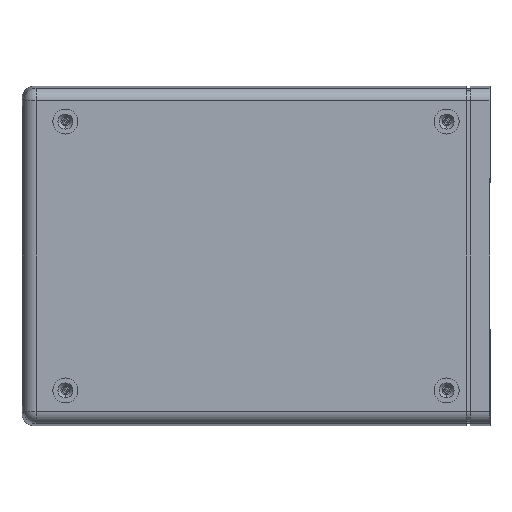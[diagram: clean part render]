
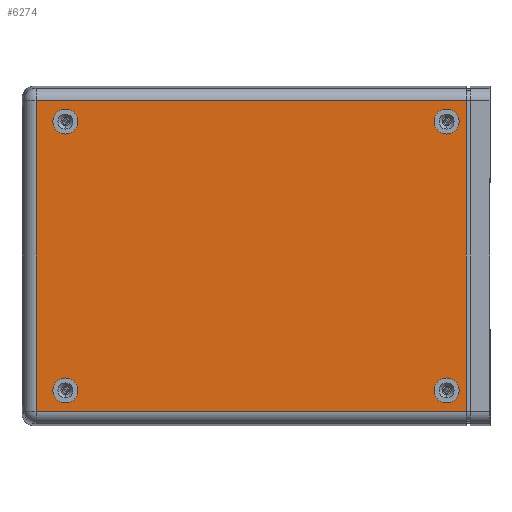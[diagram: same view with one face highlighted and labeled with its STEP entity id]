
A CAD part, front view. The second image highlights one B-rep face of the part: STEP entity #6274.
In plain terms, the highlighted planar face has unit normal (0, -1, 0).
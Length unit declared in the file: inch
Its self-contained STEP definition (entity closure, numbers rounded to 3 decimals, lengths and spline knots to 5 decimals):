
#88 = VECTOR ( 'NONE', #5483, 39.37008 ) ;
#230 = FACE_BOUND ( 'NONE', #10046, .T. ) ;
#500 = DIRECTION ( 'NONE',  ( 0., -1., 0. ) ) ;
#877 = AXIS2_PLACEMENT_3D ( 'NONE', #12162, #30300, #14810 ) ;
#947 = VERTEX_POINT ( 'NONE', #18120 ) ;
#1793 = EDGE_CURVE ( 'NONE', #17872, #31861, #30108, .T. ) ;
#1824 = LINE ( 'NONE', #27261, #8117 ) ;
#2478 = CARTESIAN_POINT ( 'NONE',  ( 3.044, -0.895, 1.9475 ) ) ;
#2642 = CARTESIAN_POINT ( 'NONE',  ( -3.51261, -0.895, -2.4758 ) ) ;
#2674 = EDGE_CURVE ( 'NONE', #12494, #27429, #30045, .T. ) ;
#2822 = DIRECTION ( 'NONE',  ( 0., -1., 0. ) ) ;
#3414 = DIRECTION ( 'NONE',  ( 0., 0., 1. ) ) ;
#3534 = VECTOR ( 'NONE', #27044, 39.37008 ) ;
#3787 = CIRCLE ( 'NONE', #27200, 0.2 ) ;
#3851 = EDGE_CURVE ( 'NONE', #947, #15308, #3787, .T. ) ;
#3924 = DIRECTION ( 'NONE',  ( 0., 1., 0. ) ) ;
#4255 = CARTESIAN_POINT ( 'NONE',  ( -3.044, -0.895, -2.1475 ) ) ;
#4320 = CARTESIAN_POINT ( 'NONE',  ( -3.044, -0.895, 2.1475 ) ) ;
#4995 = VERTEX_POINT ( 'NONE', #2642 ) ;
#5376 = EDGE_LOOP ( 'NONE', ( #19536, #28916 ) ) ;
#5483 = DIRECTION ( 'NONE',  ( -1., 0., 0. ) ) ;
#5812 = EDGE_LOOP ( 'NONE', ( #18097, #12903 ) ) ;
#6274 = ADVANCED_FACE ( 'NONE', ( #28072, #15216, #7384, #28907, #230 ), #26782, .F. ) ;
#6957 = DIRECTION ( 'NONE',  ( 0., 0., 1. ) ) ;
#7044 = DIRECTION ( 'NONE',  ( 0., 0., -1. ) ) ;
#7079 = CARTESIAN_POINT ( 'NONE',  ( -3.51261, -0.895, -2.6656 ) ) ;
#7254 = LINE ( 'NONE', #15930, #88 ) ;
#7384 = FACE_BOUND ( 'NONE', #16891, .T. ) ;
#8117 = VECTOR ( 'NONE', #9130, 39.37008 ) ;
#8181 = CIRCLE ( 'NONE', #877, 0.2 ) ;
#8906 = CARTESIAN_POINT ( 'NONE',  ( 3.35685, -0.895, 2.4758 ) ) ;
#8980 = CIRCLE ( 'NONE', #17286, 0.2 ) ;
#9130 = DIRECTION ( 'NONE',  ( 1., 0., 0. ) ) ;
#9178 = AXIS2_PLACEMENT_3D ( 'NONE', #30049, #14567, #32704 ) ;
#9333 = CARTESIAN_POINT ( 'NONE',  ( -3.044, -0.895, -2.1475 ) ) ;
#9634 = EDGE_LOOP ( 'NONE', ( #16647, #17330, #24795, #18853 ) ) ;
#10046 = EDGE_LOOP ( 'NONE', ( #12507, #15741 ) ) ;
#10458 = VERTEX_POINT ( 'NONE', #17377 ) ;
#10530 = ORIENTED_EDGE ( 'NONE', *, *, #26756, .T. ) ;
#10582 = LINE ( 'NONE', #8906, #3534 ) ;
#11357 = EDGE_CURVE ( 'NONE', #11689, #22427, #7254, .T. ) ;
#11689 = VERTEX_POINT ( 'NONE', #20509 ) ;
#11994 = DIRECTION ( 'NONE',  ( 0., 0., 1. ) ) ;
#12162 = CARTESIAN_POINT ( 'NONE',  ( 3.044, -0.895, 2.1475 ) ) ;
#12368 = VERTEX_POINT ( 'NONE', #2478 ) ;
#12494 = VERTEX_POINT ( 'NONE', #26569 ) ;
#12507 = ORIENTED_EDGE ( 'NONE', *, *, #2674, .T. ) ;
#12903 = ORIENTED_EDGE ( 'NONE', *, *, #3851, .F. ) ;
#13962 = CARTESIAN_POINT ( 'NONE',  ( -3.737, -0.895, 2.7125 ) ) ;
#14567 = DIRECTION ( 'NONE',  ( 0., 1., 0. ) ) ;
#14810 = DIRECTION ( 'NONE',  ( 0., 0., -1. ) ) ;
#15106 = AXIS2_PLACEMENT_3D ( 'NONE', #13962, #19159, #3414 ) ;
#15216 = FACE_BOUND ( 'NONE', #5812, .T. ) ;
#15308 = VERTEX_POINT ( 'NONE', #18352 ) ;
#15741 = ORIENTED_EDGE ( 'NONE', *, *, #26301, .T. ) ;
#15930 = CARTESIAN_POINT ( 'NONE',  ( -3.70575, -0.895, 2.4758 ) ) ;
#15996 = AXIS2_PLACEMENT_3D ( 'NONE', #16356, #500, #18966 ) ;
#16047 = CARTESIAN_POINT ( 'NONE',  ( 3.35685, -0.895, -2.4758 ) ) ;
#16356 = CARTESIAN_POINT ( 'NONE',  ( -3.044, -0.895, 2.1475 ) ) ;
#16647 = ORIENTED_EDGE ( 'NONE', *, *, #11357, .T. ) ;
#16891 = EDGE_LOOP ( 'NONE', ( #32844, #10530 ) ) ;
#17286 = AXIS2_PLACEMENT_3D ( 'NONE', #9333, #27477, #11994 ) ;
#17330 = ORIENTED_EDGE ( 'NONE', *, *, #27260, .T. ) ;
#17377 = CARTESIAN_POINT ( 'NONE',  ( 3.044, -0.895, 2.3475 ) ) ;
#17872 = VERTEX_POINT ( 'NONE', #31502 ) ;
#18097 = ORIENTED_EDGE ( 'NONE', *, *, #27065, .F. ) ;
#18120 = CARTESIAN_POINT ( 'NONE',  ( -3.044, -0.895, 2.3475 ) ) ;
#18352 = CARTESIAN_POINT ( 'NONE',  ( -3.044, -0.895, 1.9475 ) ) ;
#18631 = CARTESIAN_POINT ( 'NONE',  ( 3.044, -0.895, 2.1475 ) ) ;
#18758 = LINE ( 'NONE', #7079, #25524 ) ;
#18853 = ORIENTED_EDGE ( 'NONE', *, *, #27117, .F. ) ;
#18966 = DIRECTION ( 'NONE',  ( 0., 0., -1. ) ) ;
#19037 = AXIS2_PLACEMENT_3D ( 'NONE', #4255, #22483, #6957 ) ;
#19159 = DIRECTION ( 'NONE',  ( 0., 1., 0. ) ) ;
#19216 = AXIS2_PLACEMENT_3D ( 'NONE', #19631, #3924, #22186 ) ;
#19268 = CARTESIAN_POINT ( 'NONE',  ( -3.51261, -0.895, 2.4758 ) ) ;
#19536 = ORIENTED_EDGE ( 'NONE', *, *, #26345, .F. ) ;
#19601 = CARTESIAN_POINT ( 'NONE',  ( -3.044, -0.895, -1.9475 ) ) ;
#19631 = CARTESIAN_POINT ( 'NONE',  ( 3.044, -0.895, -2.1475 ) ) ;
#19957 = CIRCLE ( 'NONE', #15996, 0.2 ) ;
#20509 = CARTESIAN_POINT ( 'NONE',  ( 3.35685, -0.895, 2.4758 ) ) ;
#20927 = CARTESIAN_POINT ( 'NONE',  ( 3.044, -0.895, -1.9475 ) ) ;
#21169 = DIRECTION ( 'NONE',  ( 0., 0., -1. ) ) ;
#22186 = DIRECTION ( 'NONE',  ( 0., 0., 1. ) ) ;
#22427 = VERTEX_POINT ( 'NONE', #19268 ) ;
#22483 = DIRECTION ( 'NONE',  ( 0., 1., 0. ) ) ;
#22555 = DIRECTION ( 'NONE',  ( 0., -1., 0. ) ) ;
#22735 = AXIS2_PLACEMENT_3D ( 'NONE', #18631, #2822, #21169 ) ;
#24795 = ORIENTED_EDGE ( 'NONE', *, *, #27167, .T. ) ;
#25524 = VECTOR ( 'NONE', #33169, 39.37008 ) ;
#26118 = VERTEX_POINT ( 'NONE', #16047 ) ;
#26196 = CIRCLE ( 'NONE', #22735, 0.2 ) ;
#26301 = EDGE_CURVE ( 'NONE', #27429, #12494, #30570, .T. ) ;
#26345 = EDGE_CURVE ( 'NONE', #12368, #10458, #8181, .T. ) ;
#26569 = CARTESIAN_POINT ( 'NONE',  ( 3.044, -0.895, -2.3475 ) ) ;
#26756 = EDGE_CURVE ( 'NONE', #31861, #17872, #8980, .T. ) ;
#26782 = PLANE ( 'NONE',  #15106 ) ;
#27044 = DIRECTION ( 'NONE',  ( 0., 0., -1. ) ) ;
#27065 = EDGE_CURVE ( 'NONE', #15308, #947, #19957, .T. ) ;
#27117 = EDGE_CURVE ( 'NONE', #11689, #26118, #10582, .T. ) ;
#27167 = EDGE_CURVE ( 'NONE', #4995, #26118, #1824, .T. ) ;
#27200 = AXIS2_PLACEMENT_3D ( 'NONE', #4320, #22555, #7044 ) ;
#27260 = EDGE_CURVE ( 'NONE', #22427, #4995, #18758, .T. ) ;
#27261 = CARTESIAN_POINT ( 'NONE',  ( 3.737, -0.895, -2.4758 ) ) ;
#27429 = VERTEX_POINT ( 'NONE', #20927 ) ;
#27477 = DIRECTION ( 'NONE',  ( 0., 1., 0. ) ) ;
#28072 = FACE_OUTER_BOUND ( 'NONE', #9634, .T. ) ;
#28907 = FACE_BOUND ( 'NONE', #5376, .T. ) ;
#28916 = ORIENTED_EDGE ( 'NONE', *, *, #31666, .F. ) ;
#30045 = CIRCLE ( 'NONE', #9178, 0.2 ) ;
#30049 = CARTESIAN_POINT ( 'NONE',  ( 3.044, -0.895, -2.1475 ) ) ;
#30108 = CIRCLE ( 'NONE', #19037, 0.2 ) ;
#30300 = DIRECTION ( 'NONE',  ( 0., -1., 0. ) ) ;
#30570 = CIRCLE ( 'NONE', #19216, 0.2 ) ;
#31502 = CARTESIAN_POINT ( 'NONE',  ( -3.044, -0.895, -2.3475 ) ) ;
#31666 = EDGE_CURVE ( 'NONE', #10458, #12368, #26196, .T. ) ;
#31861 = VERTEX_POINT ( 'NONE', #19601 ) ;
#32704 = DIRECTION ( 'NONE',  ( 0., 0., 1. ) ) ;
#32844 = ORIENTED_EDGE ( 'NONE', *, *, #1793, .T. ) ;
#33169 = DIRECTION ( 'NONE',  ( 0., 0., -1. ) ) ;
